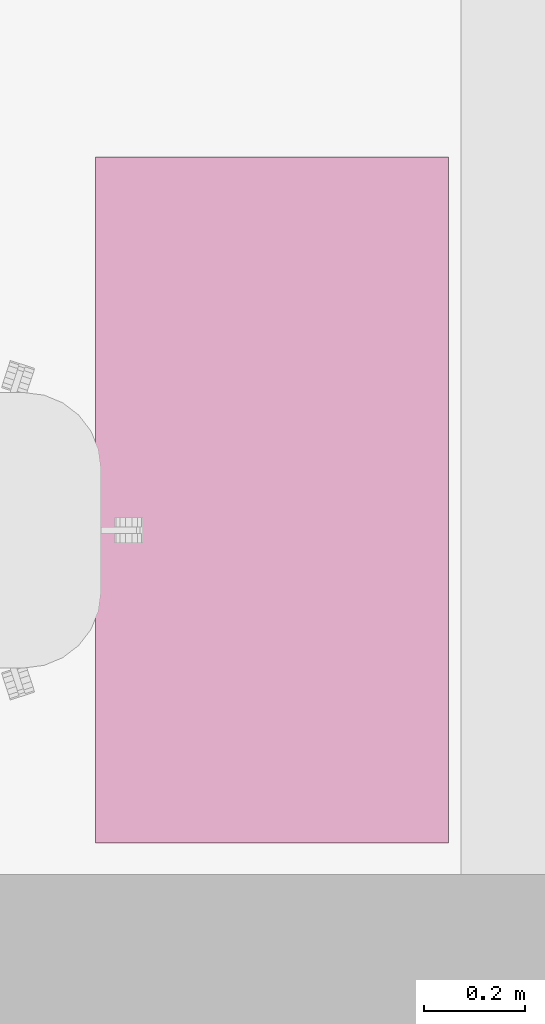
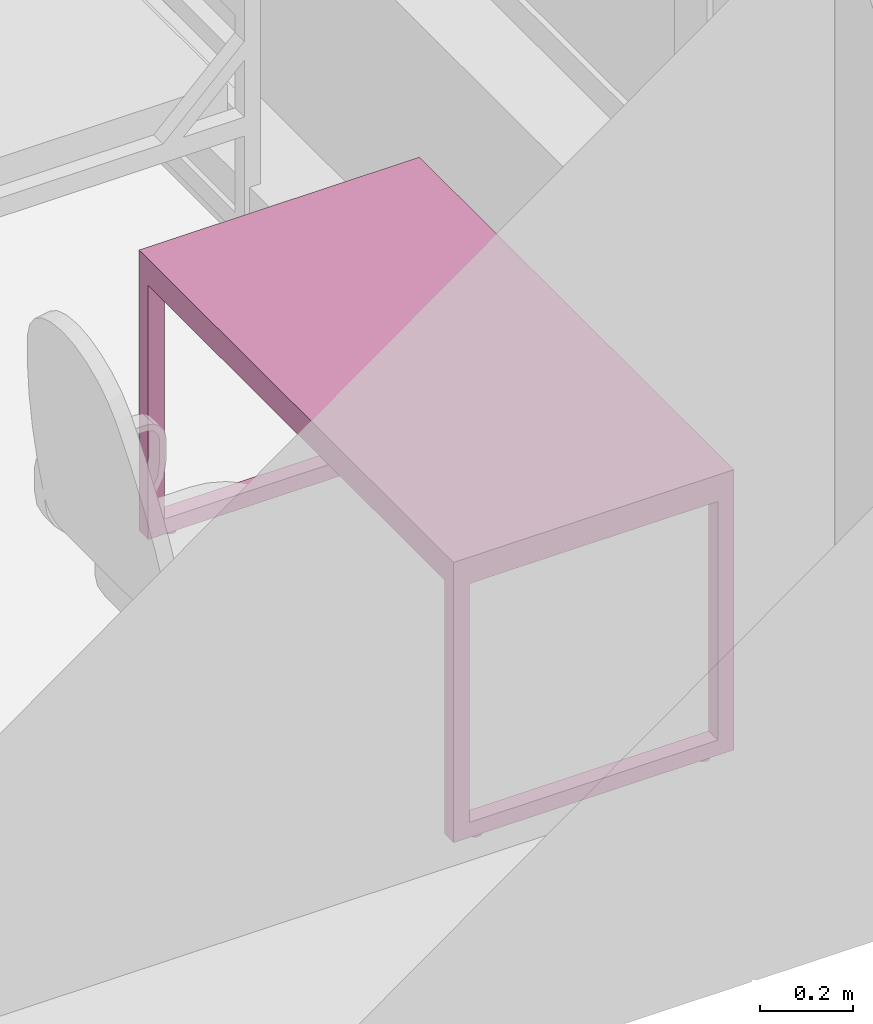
# One storey, part 43 of 48: 1 furnishing.
"""IFC2X3 building model written with IfcOpenShell, lengths in millimetres."""

from ifc_helpers import new_model, entity, si_unit, converted_unit, derived_unit, direction, frame, origin, place, context, subcontext, project, spatial, faceted_brep, source, transform, mapped, material, material_list, type_object, type_shapes, element, save


model = new_model("IFC2X3")

# Units and contexts
model_context = context("Model", 3, precision=0.01, world=origin(), true_north=direction((6.12303176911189e-17, 1.0)))
body_context = subcontext(model_context, "Body", "Model", "MODEL_VIEW")
ifc_project = project(units=[si_unit("LENGTHUNIT", "METRE", prefix="MILLI"), si_unit("AREAUNIT", "SQUARE_METRE"), si_unit("VOLUMEUNIT", "CUBIC_METRE"), converted_unit("PLANEANGLEUNIT", "DEGREE", entity("IfcRatioMeasure", 0.0174532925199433), si_unit("PLANEANGLEUNIT", "RADIAN"), dimensions=[0, 0, 0, 0, 0, 0, 0]), si_unit("MASSUNIT", "GRAM", prefix="KILO"), derived_unit("MASSDENSITYUNIT", [(si_unit("MASSUNIT", "GRAM", prefix="KILO"), 1), (si_unit("LENGTHUNIT", "METRE"), -3)]), si_unit("TIMEUNIT", "SECOND"), si_unit("FREQUENCYUNIT", "HERTZ"), si_unit("THERMODYNAMICTEMPERATUREUNIT", "DEGREE_CELSIUS"), derived_unit("THERMALTRANSMITTANCEUNIT", [(si_unit("MASSUNIT", "GRAM", prefix="KILO"), 1), (si_unit("THERMODYNAMICTEMPERATUREUNIT", "KELVIN"), -1), (si_unit("TIMEUNIT", "SECOND"), -3)]), derived_unit("VOLUMETRICFLOWRATEUNIT", [(si_unit("LENGTHUNIT", "METRE"), 3), (si_unit("TIMEUNIT", "SECOND"), -1)]), si_unit("ELECTRICCURRENTUNIT", "AMPERE"), si_unit("ELECTRICVOLTAGEUNIT", "VOLT"), si_unit("POWERUNIT", "WATT"), si_unit("FORCEUNIT", "NEWTON", prefix="KILO"), si_unit("ILLUMINANCEUNIT", "LUX"), si_unit("LUMINOUSFLUXUNIT", "LUMEN"), si_unit("LUMINOUSINTENSITYUNIT", "CANDELA"), derived_unit("USERDEFINED", [(si_unit("MASSUNIT", "GRAM", prefix="KILO"), -1), (si_unit("LENGTHUNIT", "METRE"), -2), (si_unit("TIMEUNIT", "SECOND"), 3), (si_unit("LUMINOUSFLUXUNIT", "LUMEN"), 1)]), derived_unit("LINEARVELOCITYUNIT", [(si_unit("LENGTHUNIT", "METRE"), 1), (si_unit("TIMEUNIT", "SECOND"), -1)]), si_unit("PRESSUREUNIT", "PASCAL"), derived_unit("USERDEFINED", [(si_unit("LENGTHUNIT", "METRE"), -2), (si_unit("MASSUNIT", "GRAM", prefix="KILO"), 1), (si_unit("TIMEUNIT", "SECOND"), -2)]), derived_unit("LINEARFORCEUNIT", [(si_unit("MASSUNIT", "GRAM", prefix="KILO"), 1), (si_unit("LENGTHUNIT", "METRE"), 1), (si_unit("TIMEUNIT", "SECOND"), -2), (si_unit("LENGTHUNIT", "METRE"), -1)]), derived_unit("PLANARFORCEUNIT", [(si_unit("MASSUNIT", "GRAM", prefix="KILO"), 1), (si_unit("LENGTHUNIT", "METRE"), 1), (si_unit("TIMEUNIT", "SECOND"), -2), (si_unit("LENGTHUNIT", "METRE"), -2)])], contexts=[model_context])

# Site, building, storey, space
site_placement = place(None, origin())
site = spatial("IfcSite", under=ifc_project, at=site_placement, Name="Default", CompositionType="ELEMENT")
building_placement = place(site_placement, origin())
building = spatial("IfcBuilding", under=site, at=building_placement, Name="SMA ARH", CompositionType="ELEMENT")
storey_placement = place(building_placement, frame((0.0, 0.0, 6600.0)))
storey = spatial("IfcBuildingStorey", under=building, at=storey_placement, Name="3 Korrus", CompositionType="ELEMENT", Elevation=6599.99999999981)
space_placement = place(storey_placement, origin())
space = spatial("IfcSpace", under=storey, at=space_placement, Name="3-1", CompositionType="ELEMENT", InteriorOrExteriorSpace="INTERNAL")

# Furnishing
ifc_material = material(Name="<Unnamed>")
ifc_material_list = material_list([ifc_material, ifc_material])
furniture_type = type_object("IfcFurnitureType", Name="kirjutuslaud 1360x700mm:kirjutuslaud 1360x700mm", material=ifc_material_list)
shared_shape = source(origin(), body_context, "Body", "Brep", [
    faceted_brep([(680.0, -350.0, 720.0), (680.0, 350.0, 720.0), (680.0, 350.0, 750.0), (680.0, -350.0, 750.0), (-680.0, -350.0, 720.0), (-680.0, -350.0, 750.0), (-680.0, 350.0, 750.0), (-680.0, 350.0, 720.0)], [[[0, 1, 2, 3]], [[4, 5, 6, 7]], [[1, 0, 4, 7]], [[2, 1, 7, 6]], [[3, 2, 6, 5]], [[0, 3, 5, 4]]]),
    faceted_brep([(-640.0, -310.0, 680.0), (-640.0, 310.0, 680.0), (-640.0, 310.0, 720.0), (-640.0, -310.0, 720.0), (-680.0, -350.0, 720.0), (-680.0, 350.0, 720.0), (-680.0, 350.0, 10.0), (-680.0, -350.0, 10.0), (-680.0, 310.0, 680.0), (-680.0, -310.0, 680.0), (-680.0, -310.0, 50.0), (-680.0, 310.0, 50.0), (-640.0, -350.0, 10.0), (-640.0, -350.0, 680.0), (640.0, -350.0, 680.0), (640.0, -350.0, 10.0), (680.0, -350.0, 10.0), (680.0, -350.0, 720.0), (-640.0, 350.0, 10.0), (680.0, 350.0, 720.0), (680.0, 350.0, 10.0), (640.0, 350.0, 10.0), (640.0, 350.0, 680.0), (-640.0, 350.0, 680.0), (640.0, 310.0, 720.0), (640.0, -310.0, 720.0), (-640.0, 310.0, 50.0), (-640.0, -310.0, 50.0), (640.0, -310.0, 680.0), (640.0, 310.0, 680.0), (680.0, 310.0, 680.0), (680.0, 310.0, 50.0), (680.0, -310.0, 50.0), (680.0, -310.0, 680.0), (640.0, -310.0, 50.0), (640.0, 310.0, 50.0)], [[[0, 1, 2, 3]], [[4, 5, 6, 7], [8, 9, 10, 11]], [[4, 7, 12, 13, 14, 15, 16, 17]], [[18, 12, 7, 6]], [[6, 5, 19, 20, 21, 22, 23, 18]], [[19, 5, 4, 17], [2, 24, 25, 3]], [[26, 1, 8, 11]], [[27, 26, 11, 10]], [[0, 27, 10, 9]], [[1, 0, 9, 8]], [[14, 13, 0, 28]], [[24, 2, 1, 29]], [[3, 25, 28, 0]], [[17, 16, 20, 19], [30, 31, 32, 33]], [[21, 15, 14, 28, 34, 35, 29, 22]], [[20, 16, 15, 21]], [[31, 30, 29, 35]], [[32, 31, 35, 34]], [[33, 32, 34, 28]], [[30, 33, 28, 29]], [[29, 28, 25, 24]], [[29, 1, 23, 22]], [[12, 18, 23, 1, 26, 27, 0, 13]]]),
    faceted_brep([(-663.729456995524, -270.466136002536, 0.0), (-659.847171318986, -269.955023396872, 0.0), (-655.964885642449, -270.466136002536, 0.0), (-652.347171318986, -271.964642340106, 0.0), (-649.240569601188, -274.348421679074, 0.0), (-646.85679026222, -277.455023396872, 0.0), (-645.35828392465, -281.072737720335, 0.0), (-644.847171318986, -284.955023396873, 0.0), (-645.35828392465, -288.83730907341, 0.0), (-646.85679026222, -292.455023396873, 0.0), (-649.240569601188, -295.561625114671, 0.0), (-652.347171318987, -297.945404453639, 0.0), (-655.964885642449, -299.443910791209, 0.0), (-659.847171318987, -299.955023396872, 0.0), (-663.729456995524, -299.443910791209, 0.0), (-667.347171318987, -297.945404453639, 0.0), (-670.453773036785, -295.561625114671, 0.0), (-672.837552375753, -292.455023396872, 0.0), (-674.336058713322, -288.83730907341, 0.0), (-674.847171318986, -284.955023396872, 0.0), (-674.336058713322, -281.072737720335, 0.0), (-672.837552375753, -277.455023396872, 0.0), (-670.453773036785, -274.348421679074, 0.0), (-667.347171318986, -271.964642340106, 0.0), (-655.964885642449, -299.443910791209, 10.0), (-652.347171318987, -297.945404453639, 10.0), (-649.240569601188, -295.561625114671, 10.0), (-646.85679026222, -292.455023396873, 10.0), (-645.35828392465, -288.83730907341, 10.0), (-644.847171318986, -284.955023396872, 10.0), (-645.35828392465, -281.072737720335, 10.0), (-646.85679026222, -277.455023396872, 10.0), (-649.240569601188, -274.348421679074, 10.0), (-652.347171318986, -271.964642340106, 10.0), (-655.964885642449, -270.466136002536, 10.0), (-659.847171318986, -269.955023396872, 10.0), (-663.729456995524, -270.466136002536, 10.0), (-667.347171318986, -271.964642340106, 10.0), (-670.453773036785, -274.348421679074, 10.0), (-672.837552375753, -277.455023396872, 10.0), (-674.336058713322, -281.072737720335, 10.0), (-674.847171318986, -284.955023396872, 10.0), (-674.336058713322, -288.83730907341, 10.0), (-672.837552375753, -292.455023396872, 10.0), (-670.453773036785, -295.561625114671, 10.0), (-667.347171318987, -297.945404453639, 10.0), (-663.729456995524, -299.443910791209, 10.0), (-659.847171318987, -299.955023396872, 10.0)], [[[0, 1, 2, 3, 4, 5, 6, 7, 8, 9, 10, 11, 12, 13, 14, 15, 16, 17, 18, 19, 20, 21, 22, 23]], [[24, 25, 26, 27, 28, 29, 30, 31, 32, 33, 34, 35, 36, 37, 38, 39, 40, 41, 42, 43, 44, 45, 46, 47]], [[18, 42, 41, 19]], [[17, 43, 42, 18]], [[45, 44, 16, 15]], [[17, 16, 44, 43]], [[46, 45, 15, 14]], [[47, 46, 14, 13]], [[12, 24, 47, 13]], [[11, 25, 24, 12]], [[27, 26, 10, 9]], [[11, 10, 26, 25]], [[28, 27, 9, 8]], [[29, 28, 8, 7]], [[6, 30, 29, 7]], [[5, 31, 30, 6]], [[33, 32, 4, 3]], [[5, 4, 32, 31]], [[34, 33, 3, 2]], [[35, 34, 2, 1]], [[0, 36, 35, 1]], [[23, 37, 36, 0]], [[39, 38, 22, 21]], [[23, 22, 38, 37]], [[40, 39, 21, 20]], [[41, 40, 20, 19]]]),
    faceted_brep([(-655.964885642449, 270.466136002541, 10.0), (-652.347171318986, 271.964642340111, 10.0), (-649.240569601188, 274.348421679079, 10.0), (-646.85679026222, 277.455023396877, 10.0), (-645.35828392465, 281.07273772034, 10.0), (-644.847171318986, 284.955023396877, 10.0), (-645.35828392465, 288.837309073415, 10.0), (-646.85679026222, 292.455023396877, 10.0), (-649.240569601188, 295.561625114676, 10.0), (-652.347171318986, 297.945404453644, 10.0), (-655.964885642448, 299.443910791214, 10.0), (-659.847171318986, 299.955023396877, 10.0), (-663.729456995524, 299.443910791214, 10.0), (-667.347171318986, 297.945404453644, 10.0), (-670.453773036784, 295.561625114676, 10.0), (-672.837552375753, 292.455023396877, 10.0), (-674.336058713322, 288.837309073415, 10.0), (-674.847171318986, 284.955023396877, 10.0), (-674.336058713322, 281.07273772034, 10.0), (-672.837552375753, 277.455023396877, 10.0), (-670.453773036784, 274.348421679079, 10.0), (-667.347171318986, 271.964642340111, 10.0), (-663.729456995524, 270.466136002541, 10.0), (-659.847171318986, 269.955023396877, 10.0), (-655.964885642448, 299.443910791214, 0.0), (-652.347171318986, 297.945404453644, 0.0), (-649.240569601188, 295.561625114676, 0.0), (-646.85679026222, 292.455023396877, 0.0), (-645.35828392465, 288.837309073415, 0.0), (-644.847171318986, 284.955023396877, 0.0), (-645.35828392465, 281.07273772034, 0.0), (-646.85679026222, 277.455023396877, 0.0), (-649.240569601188, 274.348421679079, 0.0), (-652.347171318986, 271.964642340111, 0.0), (-655.964885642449, 270.466136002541, 0.0), (-659.847171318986, 269.955023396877, 0.0), (-663.729456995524, 270.466136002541, 0.0), (-667.347171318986, 271.964642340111, 0.0), (-670.453773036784, 274.348421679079, 0.0), (-672.837552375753, 277.455023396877, 0.0), (-674.336058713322, 281.07273772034, 0.0), (-674.847171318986, 284.955023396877, 0.0), (-674.336058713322, 288.837309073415, 0.0), (-672.837552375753, 292.455023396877, 0.0), (-670.453773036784, 295.561625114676, 0.0), (-667.347171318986, 297.945404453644, 0.0), (-663.729456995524, 299.443910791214, 0.0), (-659.847171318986, 299.955023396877, 0.0)], [[[0, 1, 2, 3, 4, 5, 6, 7, 8, 9, 10, 11, 12, 13, 14, 15, 16, 17, 18, 19, 20, 21, 22, 23]], [[24, 25, 26, 27, 28, 29, 30, 31, 32, 33, 34, 35, 36, 37, 38, 39, 40, 41, 42, 43, 44, 45, 46, 47]], [[40, 18, 17, 41]], [[39, 19, 18, 40]], [[21, 20, 38, 37]], [[39, 38, 20, 19]], [[22, 21, 37, 36]], [[23, 22, 36, 35]], [[34, 0, 23, 35]], [[33, 1, 0, 34]], [[3, 2, 32, 31]], [[33, 32, 2, 1]], [[4, 3, 31, 30]], [[5, 4, 30, 29]], [[28, 6, 5, 29]], [[27, 7, 6, 28]], [[9, 8, 26, 25]], [[27, 26, 8, 7]], [[10, 9, 25, 24]], [[11, 10, 24, 47]], [[46, 12, 11, 47]], [[45, 13, 12, 46]], [[15, 14, 44, 43]], [[45, 44, 14, 13]], [[16, 15, 43, 42]], [[17, 16, 42, 41]]]),
    faceted_brep([(656.270543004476, -270.466136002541, 0.0), (660.152828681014, -269.955023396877, 0.0), (664.035114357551, -270.466136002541, 0.0), (667.652828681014, -271.96464234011, 0.0), (670.759430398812, -274.348421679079, 0.0), (673.14320973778, -277.455023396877, 0.0), (674.64171607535, -281.072737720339, 0.0), (675.152828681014, -284.955023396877, 0.0), (674.64171607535, -288.837309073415, 0.0), (673.14320973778, -292.455023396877, 0.0), (670.759430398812, -295.561625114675, 0.0), (667.652828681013, -297.945404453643, 0.0), (664.035114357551, -299.443910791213, 0.0), (660.152828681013, -299.955023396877, 0.0), (656.270543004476, -299.443910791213, 0.0), (652.652828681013, -297.945404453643, 0.0), (649.546226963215, -295.561625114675, 0.0), (647.162447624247, -292.455023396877, 0.0), (645.663941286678, -288.837309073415, 0.0), (645.152828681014, -284.955023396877, 0.0), (645.663941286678, -281.072737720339, 0.0), (647.162447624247, -277.455023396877, 0.0), (649.546226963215, -274.348421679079, 0.0), (652.652828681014, -271.96464234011, 0.0), (664.035114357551, -299.443910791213, 10.0), (667.652828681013, -297.945404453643, 10.0), (670.759430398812, -295.561625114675, 10.0), (673.14320973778, -292.455023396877, 10.0), (674.64171607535, -288.837309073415, 10.0), (675.152828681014, -284.955023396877, 10.0), (674.64171607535, -281.072737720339, 10.0), (673.14320973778, -277.455023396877, 10.0), (670.759430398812, -274.348421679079, 10.0), (667.652828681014, -271.96464234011, 10.0), (664.035114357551, -270.466136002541, 10.0), (660.152828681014, -269.955023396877, 10.0), (656.270543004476, -270.466136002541, 10.0), (652.652828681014, -271.96464234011, 10.0), (649.546226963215, -274.348421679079, 10.0), (647.162447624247, -277.455023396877, 10.0), (645.663941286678, -281.072737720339, 10.0), (645.152828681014, -284.955023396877, 10.0), (645.663941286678, -288.837309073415, 10.0), (647.162447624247, -292.455023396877, 10.0), (649.546226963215, -295.561625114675, 10.0), (652.652828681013, -297.945404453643, 10.0), (656.270543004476, -299.443910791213, 10.0), (660.152828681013, -299.955023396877, 10.0)], [[[0, 1, 2, 3, 4, 5, 6, 7, 8, 9, 10, 11, 12, 13, 14, 15, 16, 17, 18, 19, 20, 21, 22, 23]], [[24, 25, 26, 27, 28, 29, 30, 31, 32, 33, 34, 35, 36, 37, 38, 39, 40, 41, 42, 43, 44, 45, 46, 47]], [[18, 42, 41, 19]], [[17, 43, 42, 18]], [[45, 44, 16, 15]], [[17, 16, 44, 43]], [[46, 45, 15, 14]], [[47, 46, 14, 13]], [[12, 24, 47, 13]], [[11, 25, 24, 12]], [[27, 26, 10, 9]], [[11, 10, 26, 25]], [[28, 27, 9, 8]], [[29, 28, 8, 7]], [[6, 30, 29, 7]], [[5, 31, 30, 6]], [[33, 32, 4, 3]], [[5, 4, 32, 31]], [[34, 33, 3, 2]], [[35, 34, 2, 1]], [[0, 36, 35, 1]], [[23, 37, 36, 0]], [[39, 38, 22, 21]], [[23, 22, 38, 37]], [[40, 39, 21, 20]], [[41, 40, 20, 19]]]),
    faceted_brep([(664.035114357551, 270.466136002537, 10.0), (667.652828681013, 271.964642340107, 10.0), (670.759430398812, 274.348421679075, 10.0), (673.14320973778, 277.455023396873, 10.0), (674.64171607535, 281.072737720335, 10.0), (675.152828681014, 284.955023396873, 10.0), (674.64171607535, 288.837309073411, 10.0), (673.14320973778, 292.455023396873, 10.0), (670.759430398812, 295.561625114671, 10.0), (667.652828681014, 297.94540445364, 10.0), (664.035114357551, 299.443910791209, 10.0), (660.152828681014, 299.955023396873, 10.0), (656.270543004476, 299.443910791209, 10.0), (652.652828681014, 297.94540445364, 10.0), (649.546226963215, 295.561625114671, 10.0), (647.162447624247, 292.455023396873, 10.0), (645.663941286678, 288.837309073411, 10.0), (645.152828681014, 284.955023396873, 10.0), (645.663941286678, 281.072737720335, 10.0), (647.162447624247, 277.455023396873, 10.0), (649.546226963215, 274.348421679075, 10.0), (652.652828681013, 271.964642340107, 10.0), (656.270543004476, 270.466136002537, 10.0), (660.152828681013, 269.955023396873, 10.0), (664.035114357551, 299.443910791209, 0.0), (667.652828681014, 297.94540445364, 0.0), (670.759430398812, 295.561625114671, 0.0), (673.14320973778, 292.455023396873, 0.0), (674.64171607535, 288.837309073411, 0.0), (675.152828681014, 284.955023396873, 0.0), (674.64171607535, 281.072737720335, 0.0), (673.14320973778, 277.455023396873, 0.0), (670.759430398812, 274.348421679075, 0.0), (667.652828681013, 271.964642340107, 0.0), (664.035114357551, 270.466136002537, 0.0), (660.152828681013, 269.955023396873, 0.0), (656.270543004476, 270.466136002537, 0.0), (652.652828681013, 271.964642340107, 0.0), (649.546226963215, 274.348421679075, 0.0), (647.162447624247, 277.455023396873, 0.0), (645.663941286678, 281.072737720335, 0.0), (645.152828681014, 284.955023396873, 0.0), (645.663941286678, 288.837309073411, 0.0), (647.162447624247, 292.455023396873, 0.0), (649.546226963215, 295.561625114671, 0.0), (652.652828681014, 297.94540445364, 0.0), (656.270543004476, 299.443910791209, 0.0), (660.152828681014, 299.955023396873, 0.0)], [[[0, 1, 2, 3, 4, 5, 6, 7, 8, 9, 10, 11, 12, 13, 14, 15, 16, 17, 18, 19, 20, 21, 22, 23]], [[24, 25, 26, 27, 28, 29, 30, 31, 32, 33, 34, 35, 36, 37, 38, 39, 40, 41, 42, 43, 44, 45, 46, 47]], [[40, 18, 17, 41]], [[39, 19, 18, 40]], [[21, 20, 38, 37]], [[39, 38, 20, 19]], [[22, 21, 37, 36]], [[23, 22, 36, 35]], [[34, 0, 23, 35]], [[33, 1, 0, 34]], [[3, 2, 32, 31]], [[33, 32, 2, 1]], [[4, 3, 31, 30]], [[5, 4, 30, 29]], [[28, 6, 5, 29]], [[27, 7, 6, 28]], [[9, 8, 26, 25]], [[27, 26, 8, 7]], [[10, 9, 25, 24]], [[11, 10, 24, 47]], [[46, 12, 11, 47]], [[45, 13, 12, 46]], [[15, 14, 44, 43]], [[45, 44, 14, 13]], [[16, 15, 43, 42]], [[17, 16, 42, 41]]]),
])
type_shapes(furniture_type, [shared_shape])
furnishing_placement = place(space_placement, frame((38025.0, 743.180198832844, 0.0), z_axis=(0.0, 0.0, 1.0), x_axis=(0.0, 1.0, 0.0)))
element("IfcFurnishingElement", 1, at=furnishing_placement, inside=space, type_object=furniture_type, Name="kirjutuslaud 1360x700mm:kirjutuslaud 1360x700mm", ObjectType="kirjutuslaud 1360x700mm:kirjutuslaud 1360x700mm", context=body_context, shape_type="MappedRepresentation", body=[
    mapped(shared_shape, transform((0.0, 0.0, 0.0), scale=1.0)),
])

save(model, "model.ifc")
